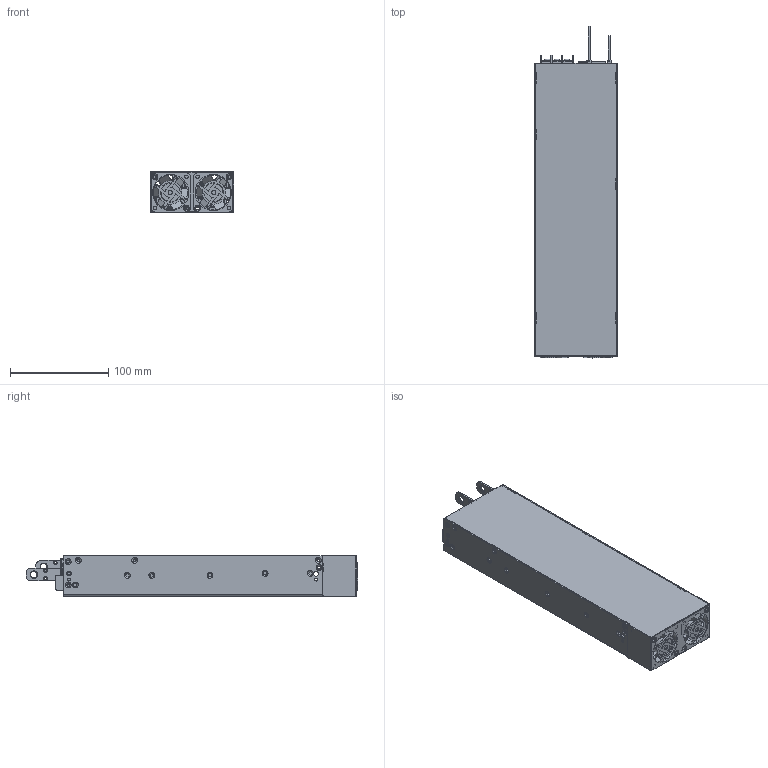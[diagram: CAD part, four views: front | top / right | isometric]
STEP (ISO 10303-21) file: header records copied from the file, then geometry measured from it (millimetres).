
FILE_DESCRIPTION((''),'2;1');
FILE_NAME('NSP-1600-1_ASM','2023-04-17T',('Vincent.Kao'),(''),'CREO PARAMETRIC BY PTC INC, 2016260','CREO PARAMETRIC BY PTC INC, 2016260','');
FILE_SCHEMA(('AUTOMOTIVE_DESIGN { 1 0 10303 214 1 1 1 1 }'));
Length unit declared in the file: millimetre
Products named in the file (44): _X2_55AE6A5F98A8624784CB_X0__2_; FFFF_1_1; HS; MHL-24; MHL-24_STP_ASM; A1-303590; A1_3; 952_1_ASM; _X2_628A624B_X0_B; A1-303070_ASM; TR-4RL; TR-4RL_STP_ASM; MOS_ASM; _S_JU_S___; A1-304990_ASM; C-C; B_X2_55AE6A5F_X0__1_1; B_X2_55AE6A5F_X0__1_2; C-B_ASM; A2-301470_ASM; A2_1; V; _X2_55AE6A5F_X0__1_1_1_1_ASM; P1; EEE; FFF; GG_2_1_1_1; P3; SS; SS_1; A1-227680; _X2_6B638F3851FA_X0__2; _X2_8CA08F3851FA_X0__1; A2-227360_ASM; 1600_ASM; 26D77668-81B1-466B-87E3-FC1E3B3; P1-T; 1600-CASE; A5; _X2_5F8C84CB_X0_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
Assembly tree (45 placements, depth 8):
  NSP-1600-1_ASM
    A2-445740_ASM
      _X2_55AE6A5F98A8624784CB_X0__2_
      1600_ASM
        FFFF_1_1
        _X2_55AE6A5F_X0__1_1_1_1_ASM
          A1-304990_ASM
            952_1_ASM
              HS
              MHL-24_STP_ASM
                MHL-24
              A1-303590
              A1_3
            A1-303070_ASM
              _X2_628A624B_X0_B
            MOS_ASM
              TR-4RL_STP_ASM
                TR-4RL
            _S_JU_S___
          A2-301470_ASM
            C-C
            C-B_ASM
              B_X2_55AE6A5F_X0__1_1
              B_X2_55AE6A5F_X0__1_2
          A2_1
          V
        P1
        EEE
        FFF
        GG_2_1_1_1  x2
        P3
        SS
        SS_1
        A1-227680
        A2-227360_ASM
          _X2_6B638F3851FA_X0__2
          _X2_8CA08F3851FA_X0__1
      26D77668-81B1-466B-87E3-FC1E3B3  x2
      P1-T
      1600-CASE
      A5
      A6_ASM
        _X2_5F8C84CB_X0_
        _X2_524D84CB_X0_
Bounding box: 85 x 338.6 x 41 mm (x, y, z)
Volume: 158623.3 mm3; surface area: 241171.6 mm2
Topology: 19 solids, 19 shells, 1588 faces, 4320 edges, 2764 vertices
Faces by surface type: plane 827, cylinder 548, cone 96, torus 80, sphere 28, bspline 9
Entity records: 59757 total; most frequent: CARTESIAN_POINT 8555, DIRECTION 8221, ORIENTED_EDGE 7710, PRESENTATION_STYLE_ASSIGNMENT 3931, STYLED_ITEM 3872, CURVE_STYLE 3855, EDGE_CURVE 3855, AXIS2_PLACEMENT_3D 2885
